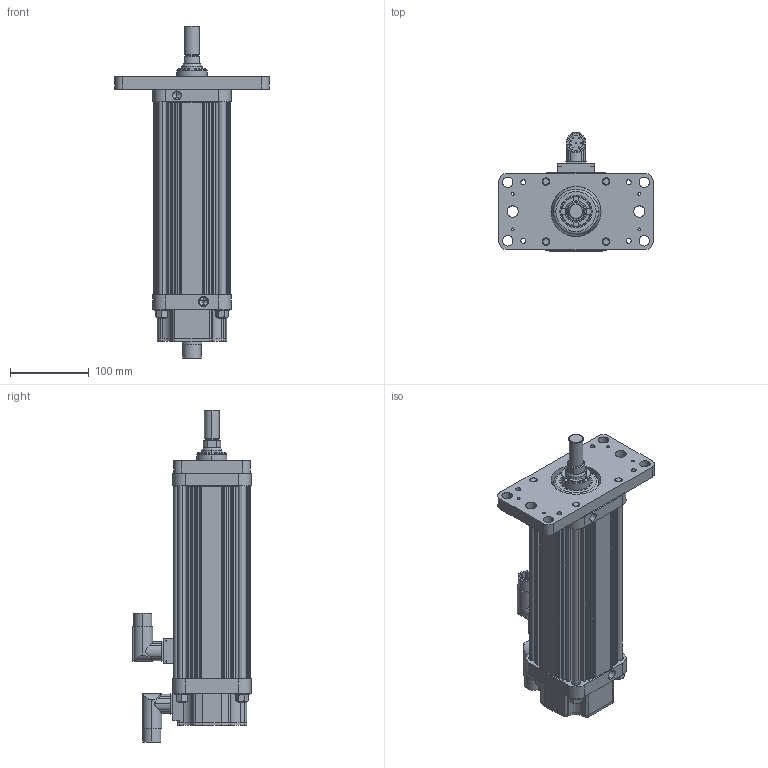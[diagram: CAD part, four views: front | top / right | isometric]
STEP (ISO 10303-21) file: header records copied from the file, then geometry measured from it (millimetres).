
FILE_DESCRIPTION (( 'STEP AP203' ), '1' );
FILE_NAME ('GSX40 – 6 inch, Front Flange, euro conn, A rod.step', '2007-08-20T07:24:51', ( '' ), ( '' ), 'SwSTEP 2.0', 'SolidWorks 2007', '' );
FILE_SCHEMA (( 'CONFIG_CONTROL_DESIGN' ));
Length unit declared in the file: inch
Products named in the file (19): 14604; GSX40 – 6 inch, Front Flange, euro conn, A rod; CASE-GSX40_30911-6"; 14604 Ret; 30929; 20728_6 INCH; MAIN ROD_A-MAIN ROD-6"; 19021; END CAP-WITH OUT RB_30741; 23017; 19819; TIEROD_12346-6"; 20494; Ball 14604; 31350; 14776; 12248; 11587
Assembly tree (42 placements, depth 3):
  GSX40 – 6 inch, Front Flange, euro conn, A rod
    TIEROD_12346-6"  x4
    12248  x4
    31350
    20728_6 INCH
    CASE-GSX40_30911-6"
    14604  x2
      Ball 14604
      14604
      14604 Ret
    11587  x4
    30929
    MAIN ROD_A-MAIN ROD-6"
    19021
    14776
    20494
    23017
    END CAP-WITH OUT RB_30741
    19819
Bounding box: 195.07 x 149.49 x 420.54 mm (x, y, z)
Volume: 1643149.3 mm3; surface area: 581157 mm2
Topology: 59 solids, 59 shells, 1253 faces, 3338 edges, 2109 vertices
Faces by surface type: cylinder 628, plane 289, cone 198, torus 78, sphere 60
Entity records: 37663 total; most frequent: CARTESIAN_POINT 9244, DIRECTION 5726, ORIENTED_EDGE 5164, EDGE_CURVE 2582, AXIS2_PLACEMENT_3D 2298, VERTEX_POINT 1663, EDGE_LOOP 1243, CIRCLE 1232
